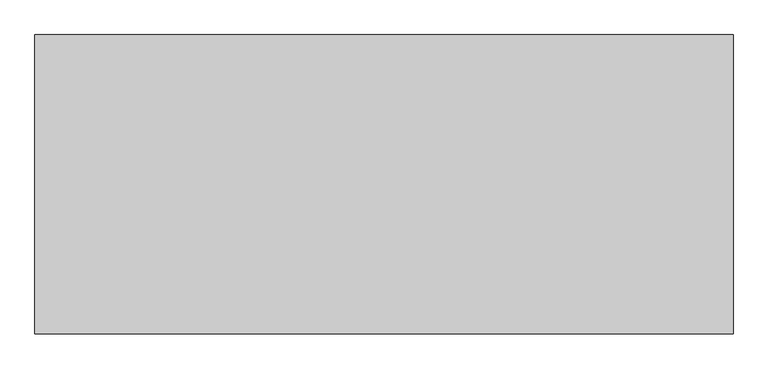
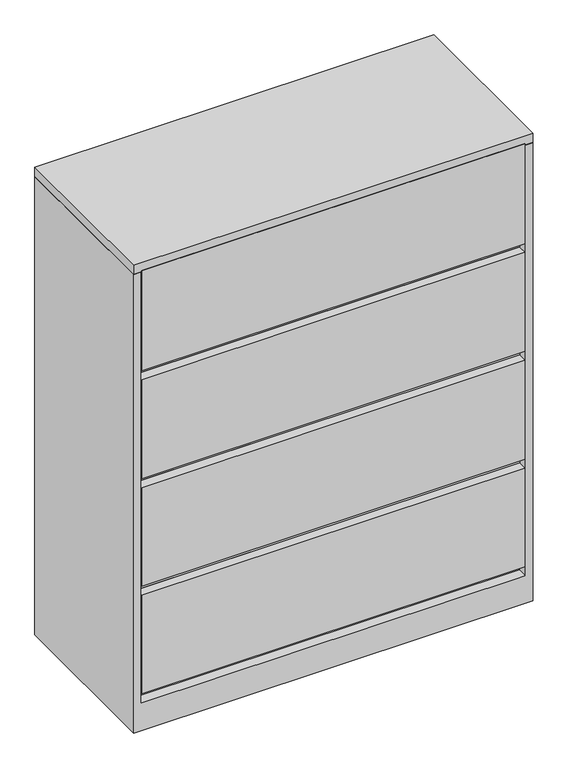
"""IFC4 building model written with IfcOpenShell, lengths in millimetres: furniture geometry, Steelcase - 900 Series - Storage - Lateral File With Roll Out Shelf - Flush Steel : 52H x 42W."""

from ifc_helpers import new_model, si_unit, frame, origin, place, context, project, spatial, polyline, outline, extrude, faceted_brep, source, transform, mapped, element, save


def furniture_e86c80b7(model_context):
    return source(origin(), model_context, "Body", "SolidModel", [
        faceted_brep([(1047.4960184, -25.2721219, 1293.876), (1047.4960184, -457.2, 1293.876), (1066.8, -457.2, 1293.876), (1066.8, 0.0, 1293.876), (0.0, 0.0, 1293.876), (0.0, -457.2, 1293.876), (19.3039998, -457.2, 1293.876), (19.3039998, -25.2721219, 1293.876), (0.0, -457.2, 0.0), (0.0, 0.0, 0.0), (1066.8, 0.0, 0.0), (1066.8, -457.2, 0.0), (1047.4960184, -25.2721219, 406.7048), (1047.4960184, -431.800255, 406.7048), (1047.4960184, -431.800255, 381.254), (1047.4960184, -25.2721219, 381.254), (1047.4960184, -25.2721219, 103.3780013), (1047.4960184, -430.275847, 103.3780013), (1047.4960184, -430.275847, 77.9779983), (1047.4960184, -457.2, 77.9779983), (19.3039998, -457.2, 77.9779983), (19.3039998, -430.275847, 77.9779983), (19.3039998, -430.275847, 103.3780013), (19.3039998, -25.2721219, 103.3780013), (19.3039998, -25.2721219, 381.254), (19.3039998, -431.800255, 381.254), (19.3039998, -431.800255, 406.7048), (19.3039998, -25.2721219, 406.7048)], [[[0, 1, 2, 3, 4, 5, 6, 7]], [[8, 9, 10, 11]], [[1, 0, 12, 13, 14, 15, 16, 17, 18, 19]], [[2, 1, 19, 20, 6, 5, 8, 11]], [[3, 2, 11, 10]], [[4, 3, 10, 9]], [[5, 4, 9, 8]], [[7, 6, 20, 21, 22, 23, 24, 25, 26, 27]], [[0, 7, 27, 12]], [[16, 15, 24, 23]], [[18, 21, 20, 19]], [[22, 17, 16, 23]], [[21, 18, 17, 22]], [[26, 13, 12, 27]], [[13, 26, 25, 14]], [[14, 25, 24, 15]]]),
        extrude(outline(polyline([(1047.4960184, -25.2721219), (1047.4960184, -431.800255), (19.3039998, -431.800255), (19.3039998, -25.2721219), (1047.4960184, -25.2721219)])), frame((0.0, 0.0, 686.1048), z_axis=(0.0, 0.0, 1.0), x_axis=(1.0, 0.0, 0.0)), (0.0, 0.0, 1.0), 25.4),
        extrude(outline(polyline([(1045.9722015, -457.2), (20.8289612, -457.2), (20.8289612, -431.800255), (1045.9722015, -431.800255), (1045.9722015, -457.2)])), frame((0.0, 0.0, 1016.3048), z_axis=(0.0, 0.0, 1.0), x_axis=(1.0, 0.0, 0.0)), (0.0, 0.0, 1.0), 282.2702),
        extrude(outline(polyline([(1045.9722015, -457.2), (20.8289612, -457.2), (20.8289612, -431.800255), (1045.9722015, -431.800255), (1045.9722015, -457.2)])), frame((0.0, 0.0, 711.5048), z_axis=(0.0, 0.0, 1.0), x_axis=(1.0, 0.0, 0.0)), (0.0, 0.0, 1.0), 279.4),
        extrude(outline(polyline([(1047.4960184, -25.2721219), (1047.4960184, -431.800255), (19.3039998, -431.800255), (19.3039998, -25.2721219), (1047.4960184, -25.2721219)])), frame((0.0, 0.0, 990.9048), z_axis=(0.0, 0.0, 1.0), x_axis=(1.0, 0.0, 0.0)), (0.0, 0.0, 1.0), 25.4),
        faceted_brep([(1066.8, 0.0, 1320.8), (0.0, 0.0, 1320.8), (0.0, -457.2, 1320.8), (1066.8, -457.2, 1320.8), (1066.8, 0.0, 1295.3999516), (1066.8, -457.2, 1295.3999516), (0.0, -457.2, 1295.3999516), (0.0, 0.0, 1295.3999516), (1047.4960184, -25.2721219, 1295.3999516), (20.8289612, -25.2721219, 1295.3999516), (20.8289612, -415.9241219, 1295.3999516), (1047.4960184, -415.9241219, 1295.3999516), (1047.4960184, -25.2721219, 1293.876), (1047.4960184, -415.9241219, 1293.876), (20.8289612, -415.9241219, 1293.876), (20.8289612, -25.2721219, 1293.876)], [[[0, 1, 2, 3]], [[4, 5, 6, 7], [8, 9, 10, 11]], [[1, 0, 4, 7]], [[2, 1, 7, 6]], [[3, 2, 6, 5]], [[0, 3, 5, 4]], [[12, 13, 14, 15]], [[12, 15, 9, 8]], [[15, 14, 10, 9]], [[14, 13, 11, 10]], [[13, 12, 8, 11]]]),
        extrude(outline(polyline([(1045.9722015, -457.2), (20.8289612, -457.2), (20.8289612, -431.800255), (1045.9722015, -431.800255), (1045.9722015, -457.2)])), frame((0.0, 0.0, 103.3780013), z_axis=(0.0, 0.0, 1.0), x_axis=(1.0, 0.0, 0.0)), (0.0, 0.0, 1.0), 277.8759987),
        extrude(outline(polyline([(1045.9722015, -457.2), (20.8289612, -457.2), (20.8289612, -431.800255), (1045.9722015, -431.800255), (1045.9722015, -457.2)])), frame((0.0, 0.0, 406.7048), z_axis=(0.0, 0.0, 1.0), x_axis=(1.0, 0.0, 0.0)), (0.0, 0.0, 1.0), 279.4),
    ])


if __name__ == "__main__":
    model = new_model("IFC4")
    model_context = context("Model", 3, world=origin())
    ifc_project = project(units=[si_unit("LENGTHUNIT", "METRE", prefix="MILLI")], contexts=[model_context])
    site = spatial("IfcSite", under=ifc_project)
    building = spatial("IfcBuilding", under=site)
    placement = place(None, origin())
    furniture_shape = furniture_e86c80b7(model_context)
    element("IfcFurniture", 1, ObjectType="Steelcase - 900 Series - Storage - Lateral File With Roll Out Shelf - Flush Steel : 52H x 42W", at=placement, inside=building, context=model_context, shape_type="MappedRepresentation", body=[
        mapped(furniture_shape, transform((0.0, 0.0, 0.0), x_axis=(1.0, 0.0, 0.0), y_axis=(0.0, 1.0, 0.0), z_axis=(0.0, 0.0, 1.0))),
    ])
    save(model, "model.ifc")
